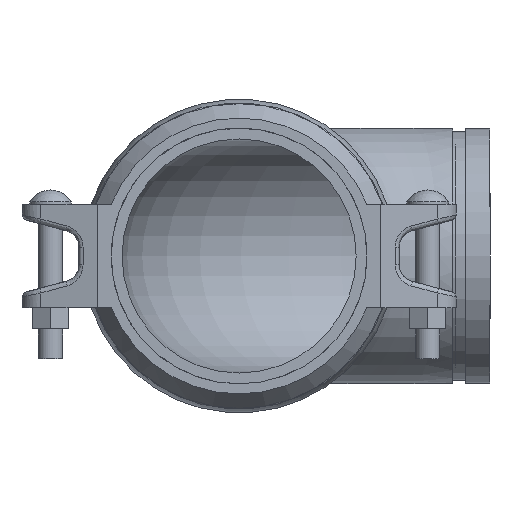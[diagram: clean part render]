
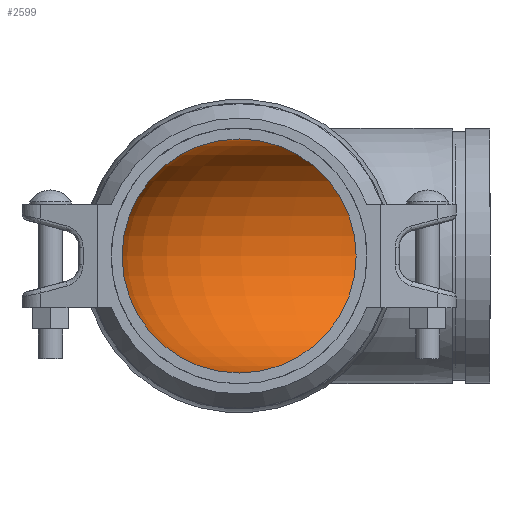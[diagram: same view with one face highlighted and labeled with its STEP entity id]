
A CAD part, left-side view. The second image highlights one B-rep face of the part: STEP entity #2599.
In plain terms, the highlighted toroidal (fillet/blend) face has major radius 142.088 mm and minor radius 77.025 mm.
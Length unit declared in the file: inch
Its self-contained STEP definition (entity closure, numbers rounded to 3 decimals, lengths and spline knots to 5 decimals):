
#102=TOROIDAL_SURFACE('',#2860,5.594,3.0325);
#558=FACE_OUTER_BOUND('',#711,.T.);
#711=EDGE_LOOP('',(#1667,#1668,#1669,#1670,#1671,#1672));
#889=CIRCLE('',#2857,3.0325);
#890=CIRCLE('',#2858,3.0325);
#892=CIRCLE('',#2861,3.0325);
#893=CIRCLE('',#2862,2.5615);
#894=CIRCLE('',#2863,3.0325);
#1031=VERTEX_POINT('',#4260);
#1032=VERTEX_POINT('',#4261);
#1034=VERTEX_POINT('',#4268);
#1035=VERTEX_POINT('',#4269);
#1281=EDGE_CURVE('',#1031,#1032,#889,.T.);
#1282=EDGE_CURVE('',#1032,#1031,#890,.T.);
#1285=EDGE_CURVE('',#1034,#1035,#892,.T.);
#1286=EDGE_CURVE('',#1035,#1032,#893,.T.);
#1287=EDGE_CURVE('',#1035,#1034,#894,.T.);
#1667=ORIENTED_EDGE('',*,*,#1285,.T.);
#1668=ORIENTED_EDGE('',*,*,#1286,.T.);
#1669=ORIENTED_EDGE('',*,*,#1281,.F.);
#1670=ORIENTED_EDGE('',*,*,#1282,.F.);
#1671=ORIENTED_EDGE('',*,*,#1286,.F.);
#1672=ORIENTED_EDGE('',*,*,#1287,.T.);
#2599=ADVANCED_FACE('',(#558),#102,.F.);
#2857=AXIS2_PLACEMENT_3D('',#4262,#3196,#3197);
#2858=AXIS2_PLACEMENT_3D('',#4263,#3198,#3199);
#2860=AXIS2_PLACEMENT_3D('',#4267,#3203,#3204);
#2861=AXIS2_PLACEMENT_3D('',#4270,#3205,#3206);
#2862=AXIS2_PLACEMENT_3D('',#4271,#3207,#3208);
#2863=AXIS2_PLACEMENT_3D('',#4272,#3209,#3210);
#3196=DIRECTION('center_axis',(0.,1.,0.));
#3197=DIRECTION('ref_axis',(1.,0.,0.));
#3198=DIRECTION('center_axis',(0.,1.,0.));
#3199=DIRECTION('ref_axis',(1.,0.,0.));
#3203=DIRECTION('center_axis',(0.,0.,1.));
#3204=DIRECTION('ref_axis',(1.,0.,0.));
#3205=DIRECTION('center_axis',(1.,0.,0.));
#3206=DIRECTION('ref_axis',(0.,-1.,0.));
#3207=DIRECTION('center_axis',(0.,0.,1.));
#3208=DIRECTION('ref_axis',(1.,0.,0.));
#3209=DIRECTION('center_axis',(1.,0.,0.));
#3210=DIRECTION('ref_axis',(0.,-1.,0.));
#4260=CARTESIAN_POINT('',(-3.0325,-5.594,0.));
#4261=CARTESIAN_POINT('',(3.0325,-5.594,0.));
#4262=CARTESIAN_POINT('Origin',(0.,-5.594,
0.));
#4263=CARTESIAN_POINT('Origin',(0.,-5.594,
0.));
#4267=CARTESIAN_POINT('Origin',(5.594,-5.594,0.));
#4268=CARTESIAN_POINT('',(5.594,3.0325,0.));
#4269=CARTESIAN_POINT('',(5.594,-3.0325,0.));
#4270=CARTESIAN_POINT('Origin',(5.594,0.,0.));
#4271=CARTESIAN_POINT('Origin',(5.594,-5.594,0.));
#4272=CARTESIAN_POINT('Origin',(5.594,0.,0.));
